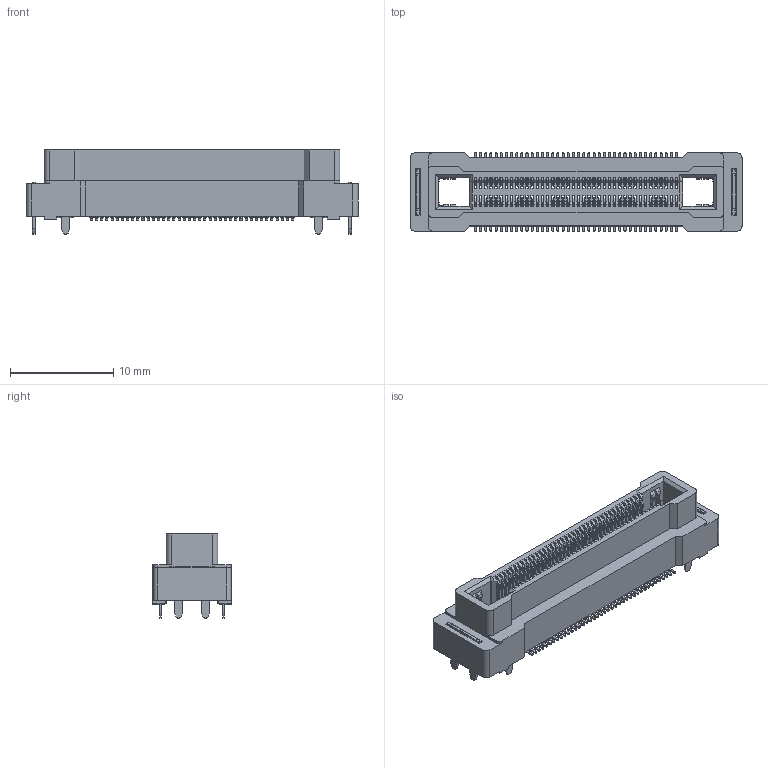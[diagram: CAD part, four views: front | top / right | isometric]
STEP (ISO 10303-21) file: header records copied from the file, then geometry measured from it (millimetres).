
FILE_DESCRIPTION (( 'STEP AP203' ), '1' );
FILE_NAME ('2631-80FG03D1NT-S-1140508.STEP', '2025-05-08T03:35:23', ( '' ), ( '' ), 'SwSTEP 2.0', 'SolidWorks 2020', '' );
FILE_SCHEMA (( 'CONFIG_CONTROL_DESIGN' ));
Products named in the file (2): 2631-80FG03D1NT-S-1140508
Assembly tree (1 placements, depth 2):
  2631-80FG03D1NT-S-1140508
    2631-80FG03D1NT-S-1140508
Bounding box: 32.2 x 7.6 x 8.15 mm (x, y, z)
Volume: 602 mm3; surface area: 2864.3 mm2
Topology: 87 solids, 87 shells, 6889 faces, 19229 edges, 12426 vertices
Faces by surface type: plane 5701, cylinder 1184, sphere 4
Entity records: 216611 total; most frequent: CARTESIAN_POINT 41124, ORIENTED_EDGE 38450, DIRECTION 33663, EDGE_CURVE 19225, VECTOR 16853, LINE 16853, VERTEX_POINT 12426, AXIS2_PLACEMENT_3D 8405
